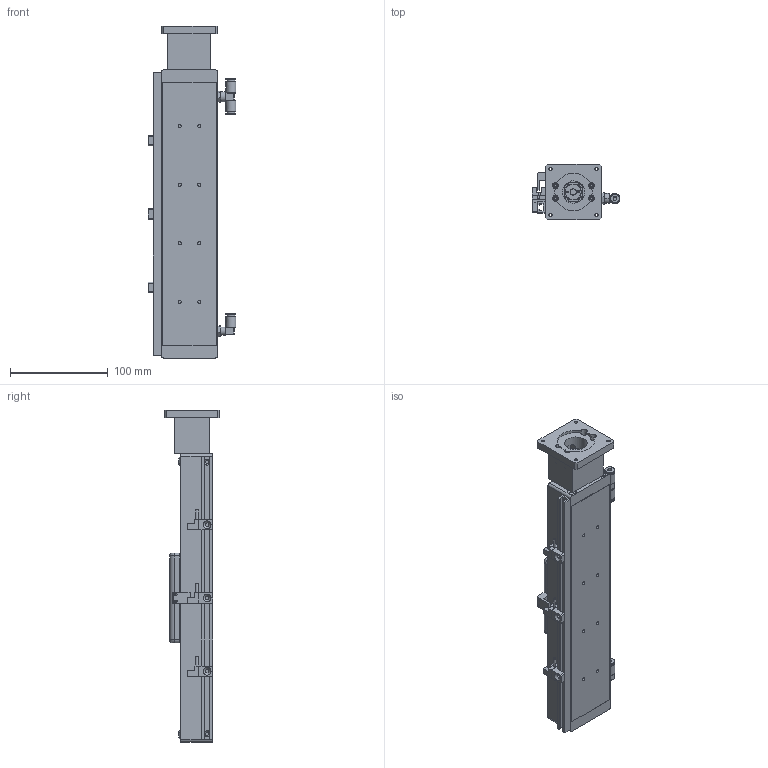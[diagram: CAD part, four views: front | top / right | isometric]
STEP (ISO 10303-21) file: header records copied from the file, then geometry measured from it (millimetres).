
FILE_DESCRIPTION((''),'2;1');
FILE_NAME('E:\catalogue and flyer\actuator catalogue 2015\dwg fr wg\UIA058CR7DC\UIA058CR7DC change cover strip 09May16\UIA058CR7DC-stp file 09May16\UIA058CR7DC-150-R0803-M23-P13-C10.stp','2016-05-09T14:15:18',('h029'),(''),'Autodesk Inventor 11','Autodesk Inventor 11','');
FILE_SCHEMA(('AUTOMOTIVE_DESIGN { 1 0 10303 214 1 1 1 1 }'));
Length unit declared in the file: millimetre
Products named in the file (14): UIA058CR7DC-150; UIA058CR7DC-body; GWL4-M5; GWT4-M5; Sensor Rail; Sensor Bracket; PM-L24; 19-100 0110 M23 Motor House; carriage-new; 19-100 0071 sensor flag; SOH-16C; SOH-16C-3; SOH-16C-2; SOH-16C-1
Assembly tree (17 placements, depth 3):
  UIA058CR7DC-150
    UIA058CR7DC-body
    GWL4-M5
    GWT4-M5
    Sensor Rail
    Sensor Bracket  x3
    PM-L24  x3
    19-100 0110 M23 Motor House
    carriage-new
    19-100 0071 sensor flag
    SOH-16C
      SOH-16C-3
      SOH-16C-2
      SOH-16C-1
Bounding box: 90.1 x 57 x 340 mm (x, y, z)
Volume: 699560.5 mm3; surface area: 123025.8 mm2
Topology: 16 solids, 16 shells, 685 faces, 1730 edges, 1124 vertices
Faces by surface type: plane 399, cylinder 139, bspline 129, cone 10, sphere 8
Full cylindrical faces by diameter (mm): 2.459 x4, 2.5 x5, 4 x2, 5 x5, 6 x4, 6.35 x1, 8.6 x2, 9 x2, 16 x3, 23 x1
Entity records: 18601 total; most frequent: CARTESIAN_POINT 4839, DIRECTION 2758, ORIENTED_EDGE 2628, EDGE_CURVE 1314, AXIS2_PLACEMENT_3D 957, VERTEX_POINT 901, VECTOR 844, LINE 844
